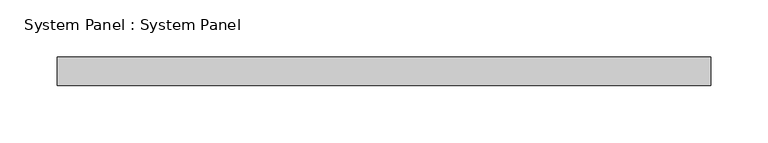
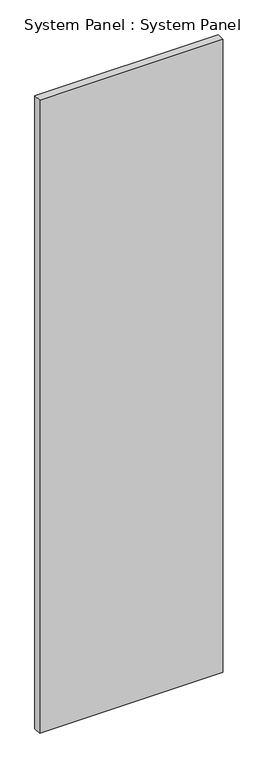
"""IFC4 building model written with IfcOpenShell, lengths in millimetres: plate geometry, System Panel : System Panel."""

from ifc_helpers import new_model, si_unit, origin, origin_with_axes, place, context, project, spatial, polyline, outline, extrude, source, transform, mapped, element, save


def system_panel_system_panel_76da7413(model_context):
    return source(origin(), model_context, "Body", "SweptSolid", [
        extrude(outline(polyline([(286.306549, 24.5), (-286.306549, 24.5), (-286.306549, 49.5), (286.306549, 49.5), (286.306549, 24.5)])), origin_with_axes(), (0.0, 0.0, 1.0), 2090.1890334),
    ])


if __name__ == "__main__":
    model = new_model("IFC4")
    model_context = context("Model", 3, world=origin())
    ifc_project = project(units=[si_unit("LENGTHUNIT", "METRE", prefix="MILLI")], contexts=[model_context])
    site = spatial("IfcSite", under=ifc_project)
    building = spatial("IfcBuilding", under=site)
    placement = place(None, origin())
    system_panel_system_panel_shape = system_panel_system_panel_76da7413(model_context)
    element("IfcPlate", 1, ObjectType="System Panel : System Panel", at=placement, inside=building, context=model_context, shape_type="MappedRepresentation", body=[
        mapped(system_panel_system_panel_shape, transform((0.0, 0.0, 0.0), x_axis=(1.0, 0.0, 0.0), y_axis=(0.0, 1.0, 0.0), z_axis=(0.0, 0.0, 1.0))),
    ])
    save(model, "model.ifc")
